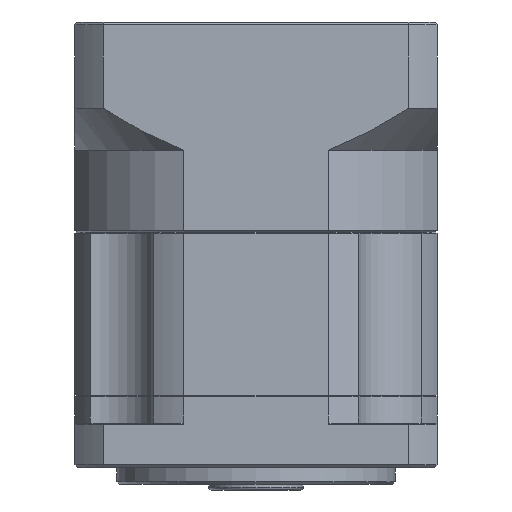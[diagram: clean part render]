
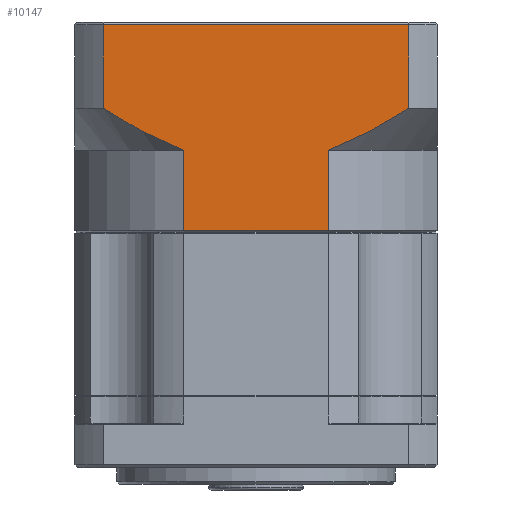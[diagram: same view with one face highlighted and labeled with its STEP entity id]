
A CAD part, front view. The second image highlights one B-rep face of the part: STEP entity #10147.
In plain terms, the highlighted planar face has unit normal (0, -1, 0).
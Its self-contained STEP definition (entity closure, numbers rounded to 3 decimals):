
#5224 = EDGE_CURVE ( 'NONE', #15922, #78523, #114681, .T. ) ;
#5850 = CARTESIAN_POINT ( 'NONE',  ( -44.783, -29.081, 155.608 ) ) ;
#10147 = ADVANCED_FACE ( 'NONE', ( #62376 ), #40194, .F. ) ;
#13102 = B_SPLINE_CURVE_WITH_KNOTS ( 'NONE', 3,
 ( #32637, #69088, #78203, #87246, #42127, #105498, #78568, #113035 ),
 .UNSPECIFIED., .F., .F.,
 ( 4, 2, 2, 4 ),
 ( 0.059, 0.063, 0.067, 0.075 ),
 .UNSPECIFIED. ) ;
#13723 = ORIENTED_EDGE ( 'NONE', *, *, #95088, .F. ) ;
#15922 = VERTEX_POINT ( 'NONE', #44130 ) ;
#15984 = DIRECTION ( 'NONE',  ( 0., 0., 1. ) ) ;
#16100 = VECTOR ( 'NONE', #15984, 1000. ) ;
#17494 = CARTESIAN_POINT ( 'NONE',  ( -4.406, -29.081, 160.608 ) ) ;
#20052 = DIRECTION ( 'NONE',  ( 0., 0., 1. ) ) ;
#23076 = DIRECTION ( 'NONE',  ( 1., 0., 0. ) ) ;
#23419 = LINE ( 'NONE', #17494, #38993 ) ;
#23660 = CARTESIAN_POINT ( 'NONE',  ( -49.802, -29.081, 157.748 ) ) ;
#24071 = CARTESIAN_POINT ( 'NONE',  ( -51.014, -29.081, 158.353 ) ) ;
#24784 = DIRECTION ( 'NONE',  ( 0., 0., -1. ) ) ;
#25028 = EDGE_CURVE ( 'NONE', #15922, #69190, #59510, .T. ) ;
#26828 = CARTESIAN_POINT ( 'NONE',  ( -18.802, -29.081, 141.196 ) ) ;
#27550 = CARTESIAN_POINT ( 'NONE',  ( -44.783, -29.081, 155.608 ) ) ;
#28673 = LINE ( 'NONE', #61280, #85287 ) ;
#31148 = ORIENTED_EDGE ( 'NONE', *, *, #25028, .T. ) ;
#32417 = CARTESIAN_POINT ( 'NONE',  ( -47.948, -29.081, 156.898 ) ) ;
#32637 = CARTESIAN_POINT ( 'NONE',  ( -4.406, -29.081, 163.108 ) ) ;
#32834 = CARTESIAN_POINT ( 'NONE',  ( -56.909, -29.081, 161.646 ) ) ;
#33505 = CARTESIAN_POINT ( 'NONE',  ( -44.783, -29.081, 155.608 ) ) ;
#34694 = VERTEX_POINT ( 'NONE', #46363 ) ;
#35719 = ORIENTED_EDGE ( 'NONE', *, *, #77329, .F. ) ;
#35997 = CARTESIAN_POINT ( 'NONE',  ( -4.406, -29.081, 178.108 ) ) ;
#36010 = LINE ( 'NONE', #68346, #16100 ) ;
#37890 = ORIENTED_EDGE ( 'NONE', *, *, #54599, .F. ) ;
#38217 = DIRECTION ( 'NONE',  ( -1., 0., 0. ) ) ;
#38993 = VECTOR ( 'NONE', #80876, 1000. ) ;
#40194 = PLANE ( 'NONE',  #40404 ) ;
#40404 = AXIS2_PLACEMENT_3D ( 'NONE', #58422, #94015, #58024 ) ;
#42127 = CARTESIAN_POINT ( 'NONE',  ( -10.217, -29.081, 159.604 ) ) ;
#44130 = CARTESIAN_POINT ( 'NONE',  ( -44.783, -29.081, 141.196 ) ) ;
#45497 = B_SPLINE_CURVE_WITH_KNOTS ( 'NONE', 3,
 ( #5850, #105682, #105299, #78374, #32417, #23660, #24071, #86678, #32834, #68874 ),
 .UNSPECIFIED., .F., .F.,
 ( 4, 2, 2, 2, 4 ),
 ( 0.101, 0.104, 0.106, 0.11, 0.118 ),
 .UNSPECIFIED. ) ;
#46277 = CARTESIAN_POINT ( 'NONE',  ( -59.178, -29.081, 163.108 ) ) ;
#46363 = CARTESIAN_POINT ( 'NONE',  ( -59.178, -29.081, 178.108 ) ) ;
#47812 = ORIENTED_EDGE ( 'NONE', *, *, #5224, .F. ) ;
#53795 = VECTOR ( 'NONE', #20052, 1000. ) ;
#54599 = EDGE_CURVE ( 'NONE', #108897, #34694, #36010, .T. ) ;
#54604 = ORIENTED_EDGE ( 'NONE', *, *, #96708, .T. ) ;
#54682 = EDGE_LOOP ( 'NONE', ( #57860, #54604, #37890, #13723, #47812, #31148, #35719, #73259 ) ) ;
#57860 = ORIENTED_EDGE ( 'NONE', *, *, #73034, .F. ) ;
#58024 = DIRECTION ( 'NONE',  ( -1., 0., 0. ) ) ;
#58422 = CARTESIAN_POINT ( 'NONE',  ( 0.708, -29.081, 178.608 ) ) ;
#59510 = LINE ( 'NONE', #76952, #62307 ) ;
#61280 = CARTESIAN_POINT ( 'NONE',  ( -18.802, -29.081, 155.608 ) ) ;
#62307 = VECTOR ( 'NONE', #23076, 1000. ) ;
#62376 = FACE_OUTER_BOUND ( 'NONE', #54682, .T. ) ;
#63669 = CARTESIAN_POINT ( 'NONE',  ( -18.802, -29.081, 155.608 ) ) ;
#65167 = CARTESIAN_POINT ( 'NONE',  ( -59.178, -29.081, 178.108 ) ) ;
#65287 = CARTESIAN_POINT ( 'NONE',  ( -4.406, -29.081, 163.108 ) ) ;
#68346 = CARTESIAN_POINT ( 'NONE',  ( -59.178, -29.081, 160.608 ) ) ;
#68874 = CARTESIAN_POINT ( 'NONE',  ( -59.178, -29.081, 163.108 ) ) ;
#69088 = CARTESIAN_POINT ( 'NONE',  ( -5.545, -29.081, 162.374 ) ) ;
#69190 = VERTEX_POINT ( 'NONE', #26828 ) ;
#70617 = LINE ( 'NONE', #65167, #94694 ) ;
#73034 = EDGE_CURVE ( 'NONE', #78114, #74827, #23419, .T. ) ;
#73259 = ORIENTED_EDGE ( 'NONE', *, *, #76305, .F. ) ;
#74827 = VERTEX_POINT ( 'NONE', #65287 ) ;
#76305 = EDGE_CURVE ( 'NONE', #74827, #113451, #13102, .T. ) ;
#76952 = CARTESIAN_POINT ( 'NONE',  ( 0.708, -29.081, 141.196 ) ) ;
#77329 = EDGE_CURVE ( 'NONE', #113451, #69190, #28673, .T. ) ;
#78114 = VERTEX_POINT ( 'NONE', #35997 ) ;
#78203 = CARTESIAN_POINT ( 'NONE',  ( -6.696, -29.081, 161.659 ) ) ;
#78374 = CARTESIAN_POINT ( 'NONE',  ( -47.325, -29.081, 156.624 ) ) ;
#78523 = VERTEX_POINT ( 'NONE', #33505 ) ;
#78568 = CARTESIAN_POINT ( 'NONE',  ( -16.263, -29.081, 156.55 ) ) ;
#80876 = DIRECTION ( 'NONE',  ( 0., 0., -1. ) ) ;
#85287 = VECTOR ( 'NONE', #24784, 1000. ) ;
#86678 = CARTESIAN_POINT ( 'NONE',  ( -54.595, -29.081, 160.258 ) ) ;
#87246 = CARTESIAN_POINT ( 'NONE',  ( -9.032, -29.081, 160.274 ) ) ;
#94015 = DIRECTION ( 'NONE',  ( 0., 1., 0. ) ) ;
#94694 = VECTOR ( 'NONE', #38217, 1000. ) ;
#95088 = EDGE_CURVE ( 'NONE', #78523, #108897, #45497, .T. ) ;
#96708 = EDGE_CURVE ( 'NONE', #78114, #34694, #70617, .T. ) ;
#105299 = CARTESIAN_POINT ( 'NONE',  ( -46.064, -29.081, 156.099 ) ) ;
#105498 = CARTESIAN_POINT ( 'NONE',  ( -13.811, -29.081, 157.695 ) ) ;
#105682 = CARTESIAN_POINT ( 'NONE',  ( -45.425, -29.081, 155.846 ) ) ;
#108897 = VERTEX_POINT ( 'NONE', #46277 ) ;
#113035 = CARTESIAN_POINT ( 'NONE',  ( -18.802, -29.081, 155.608 ) ) ;
#113451 = VERTEX_POINT ( 'NONE', #63669 ) ;
#114681 = LINE ( 'NONE', #27550, #53795 ) ;
